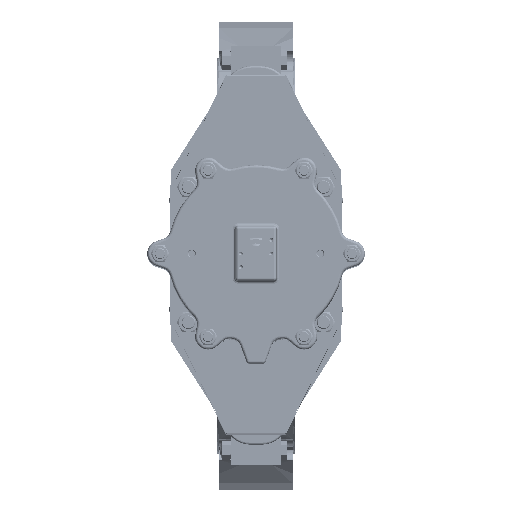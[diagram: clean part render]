
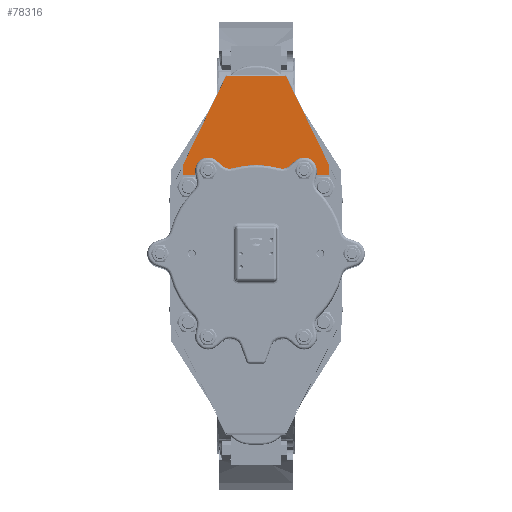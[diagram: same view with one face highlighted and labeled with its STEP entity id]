
A CAD part, top view. The second image highlights one B-rep face of the part: STEP entity #78316.
In plain terms, the highlighted planar face has unit normal (0, 0, 1).
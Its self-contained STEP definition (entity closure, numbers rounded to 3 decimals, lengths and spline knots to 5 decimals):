
#8693=LINE('',#141498,#13597);
#8697=LINE('',#141513,#13601);
#8698=LINE('',#141515,#13602);
#8699=LINE('',#141517,#13603);
#8700=LINE('',#141519,#13604);
#8701=LINE('',#141521,#13605);
#8702=LINE('',#141523,#13606);
#8703=LINE('',#141524,#13607);
#13597=VECTOR('',#105446,0.08712);
#13601=VECTOR('',#105466,0.00068);
#13602=VECTOR('',#105467,0.14596);
#13603=VECTOR('',#105468,0.016);
#13604=VECTOR('',#105469,0.216);
#13605=VECTOR('',#105470,0.016);
#13606=VECTOR('',#105471,0.14596);
#13607=VECTOR('',#105472,0.00068);
#16198=PLANE('',#86452);
#19975=FACE_OUTER_BOUND('',#25281,.T.);
#25281=EDGE_LOOP('',(#66306,#66307,#66308,#66309,#66310,#66311,#66312,#66313));
#37323=VERTEX_POINT('',#141496);
#37324=VERTEX_POINT('',#141497);
#37327=VERTEX_POINT('',#141512);
#37328=VERTEX_POINT('',#141514);
#37329=VERTEX_POINT('',#141516);
#37330=VERTEX_POINT('',#141518);
#37331=VERTEX_POINT('',#141520);
#37332=VERTEX_POINT('',#141522);
#47568=EDGE_CURVE('',#37323,#37324,#8693,.T.);
#47576=EDGE_CURVE('',#37327,#37323,#8697,.T.);
#47577=EDGE_CURVE('',#37328,#37327,#8698,.T.);
#47578=EDGE_CURVE('',#37329,#37328,#8699,.T.);
#47579=EDGE_CURVE('',#37330,#37329,#8700,.T.);
#47580=EDGE_CURVE('',#37331,#37330,#8701,.T.);
#47581=EDGE_CURVE('',#37332,#37331,#8702,.T.);
#47582=EDGE_CURVE('',#37324,#37332,#8703,.T.);
#66306=ORIENTED_EDGE('',*,*,#47576,.F.);
#66307=ORIENTED_EDGE('',*,*,#47577,.F.);
#66308=ORIENTED_EDGE('',*,*,#47578,.F.);
#66309=ORIENTED_EDGE('',*,*,#47579,.F.);
#66310=ORIENTED_EDGE('',*,*,#47580,.F.);
#66311=ORIENTED_EDGE('',*,*,#47581,.F.);
#66312=ORIENTED_EDGE('',*,*,#47582,.F.);
#66313=ORIENTED_EDGE('',*,*,#47568,.F.);
#78316=ADVANCED_FACE('',(#19975),#16198,.T.);
#86452=AXIS2_PLACEMENT_3D('',#141511,#105464,#105465);
#105446=DIRECTION('',(1.,0.,0.));
#105464=DIRECTION('center_axis',(0.,0.,
1.));
#105465=DIRECTION('ref_axis',(1.,0.,0.));
#105466=DIRECTION('',(1.,0.,0.));
#105467=DIRECTION('',(0.437,0.9,0.));
#105468=DIRECTION('',(0.,1.,0.));
#105469=DIRECTION('',(-1.,0.,0.));
#105470=DIRECTION('',(0.,-1.,0.));
#105471=DIRECTION('',(0.437,-0.9,0.));
#105472=DIRECTION('',(1.,0.,0.));
#141496=CARTESIAN_POINT('',(-0.04356,0.26411,1.1122));
#141497=CARTESIAN_POINT('',(0.04356,0.26411,1.1122));
#141498=CARTESIAN_POINT('',(-0.04356,0.26411,1.1122));
#141511=CARTESIAN_POINT('Origin',(0.,0.17589,
1.1122));
#141512=CARTESIAN_POINT('',(-0.04424,0.26411,1.1122));
#141513=CARTESIAN_POINT('',(-0.04424,0.26411,1.1122));
#141514=CARTESIAN_POINT('',(-0.108,0.13281,1.1122));
#141515=CARTESIAN_POINT('',(-0.108,0.13281,1.1122));
#141516=CARTESIAN_POINT('',(-0.108,0.11681,1.1122));
#141517=CARTESIAN_POINT('',(-0.108,0.11681,1.1122));
#141518=CARTESIAN_POINT('',(0.108,0.11681,1.1122));
#141519=CARTESIAN_POINT('',(0.108,0.11681,1.1122));
#141520=CARTESIAN_POINT('',(0.108,0.13281,1.1122));
#141521=CARTESIAN_POINT('',(0.108,0.13281,1.1122));
#141522=CARTESIAN_POINT('',(0.04424,0.26411,1.1122));
#141523=CARTESIAN_POINT('',(0.04424,0.26411,1.1122));
#141524=CARTESIAN_POINT('',(0.04356,0.26411,1.1122));
